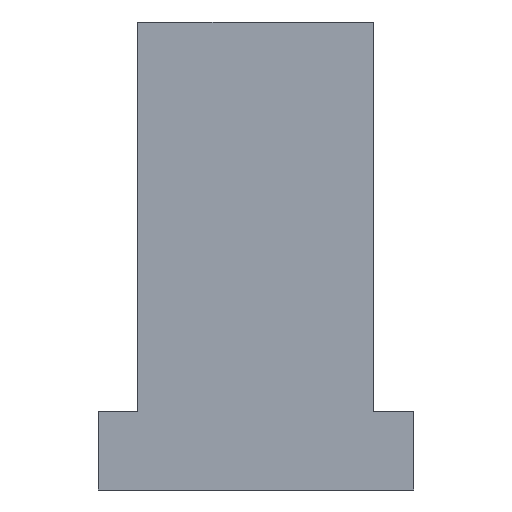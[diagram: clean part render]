
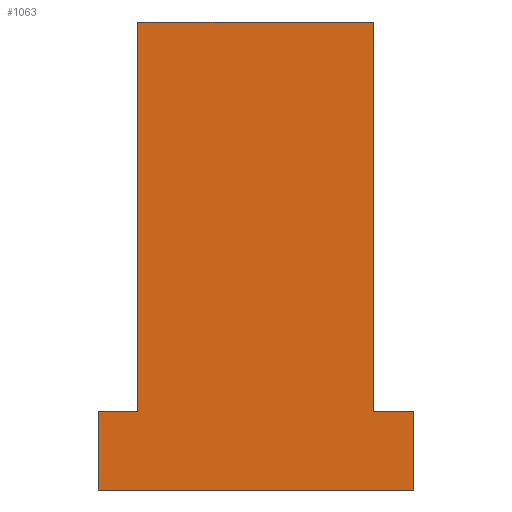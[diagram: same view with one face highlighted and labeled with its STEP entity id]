
A CAD part, front view. The second image highlights one B-rep face of the part: STEP entity #1063.
In plain terms, the highlighted planar face has unit normal (0, -1, 0).
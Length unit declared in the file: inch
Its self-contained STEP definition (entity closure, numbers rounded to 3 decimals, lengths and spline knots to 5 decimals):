
#2 = EDGE_CURVE ( 'NONE', #363, #163, #841, .T. ) ;
#102 = CARTESIAN_POINT ( 'NONE',  ( -4.42891, -0.63043, 0.5 ) ) ;
#108 = DIRECTION ( 'NONE',  ( 0., 0., -1. ) ) ;
#133 = CARTESIAN_POINT ( 'NONE',  ( -5.92391, -0.63043, 2.97 ) ) ;
#163 = VERTEX_POINT ( 'NONE', #820 ) ;
#165 = DIRECTION ( 'NONE',  ( 1., 0., 0. ) ) ;
#167 = CARTESIAN_POINT ( 'NONE',  ( -5.92391, -0.63043, 0.5 ) ) ;
#193 = EDGE_CURVE ( 'NONE', #787, #1000, #1023, .T. ) ;
#198 = CARTESIAN_POINT ( 'NONE',  ( -5.92391, -0.63043, 2.97 ) ) ;
#223 = DIRECTION ( 'NONE',  ( 0., 0., -1. ) ) ;
#234 = CARTESIAN_POINT ( 'NONE',  ( -4.17391, -0.63043, 0.5 ) ) ;
#238 = DIRECTION ( 'NONE',  ( 0., 0., -1. ) ) ;
#258 = EDGE_CURVE ( 'NONE', #966, #787, #963, .T. ) ;
#285 = VECTOR ( 'NONE', #165, 39.37008 ) ;
#299 = CARTESIAN_POINT ( 'NONE',  ( -4.42891, -0.63043, 2.97 ) ) ;
#316 = CARTESIAN_POINT ( 'NONE',  ( -4.17391, -0.63043, 0.5 ) ) ;
#317 = CARTESIAN_POINT ( 'NONE',  ( -6.17391, -0.63043, 0.5 ) ) ;
#331 = VECTOR ( 'NONE', #843, 39.37008 ) ;
#351 = VERTEX_POINT ( 'NONE', #563 ) ;
#352 = VECTOR ( 'NONE', #223, 39.37008 ) ;
#363 = VERTEX_POINT ( 'NONE', #574 ) ;
#383 = ORIENTED_EDGE ( 'NONE', *, *, #193, .F. ) ;
#425 = VECTOR ( 'NONE', #238, 39.37008 ) ;
#456 = LINE ( 'NONE', #133, #285 ) ;
#460 = CARTESIAN_POINT ( 'NONE',  ( -6.17391, -0.63043, 0.5 ) ) ;
#465 = PLANE ( 'NONE',  #466 ) ;
#466 = AXIS2_PLACEMENT_3D ( 'NONE', #460, #468, #547 ) ;
#468 = DIRECTION ( 'NONE',  ( 0., 1., 0. ) ) ;
#499 = ORIENTED_EDGE ( 'NONE', *, *, #2, .T. ) ;
#531 = CARTESIAN_POINT ( 'NONE',  ( -4.42891, -0.63043, 2.97 ) ) ;
#533 = DIRECTION ( 'NONE',  ( 0., 0., -1. ) ) ;
#547 = DIRECTION ( 'NONE',  ( 0., 0., 1. ) ) ;
#563 = CARTESIAN_POINT ( 'NONE',  ( -5.92391, -0.63043, 2.97 ) ) ;
#572 = CARTESIAN_POINT ( 'NONE',  ( -6.17391, -0.63043, 0.5 ) ) ;
#574 = CARTESIAN_POINT ( 'NONE',  ( -6.17391, -0.63043, 0. ) ) ;
#588 = ORIENTED_EDGE ( 'NONE', *, *, #1100, .F. ) ;
#589 = ORIENTED_EDGE ( 'NONE', *, *, #845, .F. ) ;
#593 = DIRECTION ( 'NONE',  ( 1., 0., 0. ) ) ;
#596 = EDGE_LOOP ( 'NONE', ( #499, #864, #383, #1113, #589, #919, #588, #1103 ) ) ;
#601 = CARTESIAN_POINT ( 'NONE',  ( -6.17391, -0.63043, 0.5 ) ) ;
#630 = FACE_OUTER_BOUND ( 'NONE', #596, .T. ) ;
#685 = EDGE_CURVE ( 'NONE', #351, #859, #1090, .T. ) ;
#693 = LINE ( 'NONE', #234, #425 ) ;
#704 = EDGE_CURVE ( 'NONE', #1000, #163, #693, .T. ) ;
#758 = LINE ( 'NONE', #572, #1001 ) ;
#778 = EDGE_CURVE ( 'NONE', #992, #363, #758, .T. ) ;
#787 = VERTEX_POINT ( 'NONE', #102 ) ;
#820 = CARTESIAN_POINT ( 'NONE',  ( -4.17391, -0.63043, 0. ) ) ;
#837 = CARTESIAN_POINT ( 'NONE',  ( -6.17391, -0.63043, 0. ) ) ;
#841 = LINE ( 'NONE', #837, #853 ) ;
#843 = DIRECTION ( 'NONE',  ( 1., 0., 0. ) ) ;
#845 = EDGE_CURVE ( 'NONE', #351, #966, #456, .T. ) ;
#853 = VECTOR ( 'NONE', #1012, 39.37008 ) ;
#859 = VERTEX_POINT ( 'NONE', #167 ) ;
#864 = ORIENTED_EDGE ( 'NONE', *, *, #704, .F. ) ;
#919 = ORIENTED_EDGE ( 'NONE', *, *, #685, .T. ) ;
#922 = CARTESIAN_POINT ( 'NONE',  ( -6.17391, -0.63043, 0.5 ) ) ;
#952 = VECTOR ( 'NONE', #593, 39.37008 ) ;
#963 = LINE ( 'NONE', #531, #1120 ) ;
#966 = VERTEX_POINT ( 'NONE', #299 ) ;
#992 = VERTEX_POINT ( 'NONE', #317 ) ;
#997 = LINE ( 'NONE', #601, #952 ) ;
#1000 = VERTEX_POINT ( 'NONE', #316 ) ;
#1001 = VECTOR ( 'NONE', #108, 39.37008 ) ;
#1012 = DIRECTION ( 'NONE',  ( 1., 0., 0. ) ) ;
#1023 = LINE ( 'NONE', #922, #331 ) ;
#1063 = ADVANCED_FACE ( 'NONE', ( #630 ), #465, .F. ) ;
#1090 = LINE ( 'NONE', #198, #352 ) ;
#1100 = EDGE_CURVE ( 'NONE', #992, #859, #997, .T. ) ;
#1103 = ORIENTED_EDGE ( 'NONE', *, *, #778, .T. ) ;
#1113 = ORIENTED_EDGE ( 'NONE', *, *, #258, .F. ) ;
#1120 = VECTOR ( 'NONE', #533, 39.37008 ) ;
